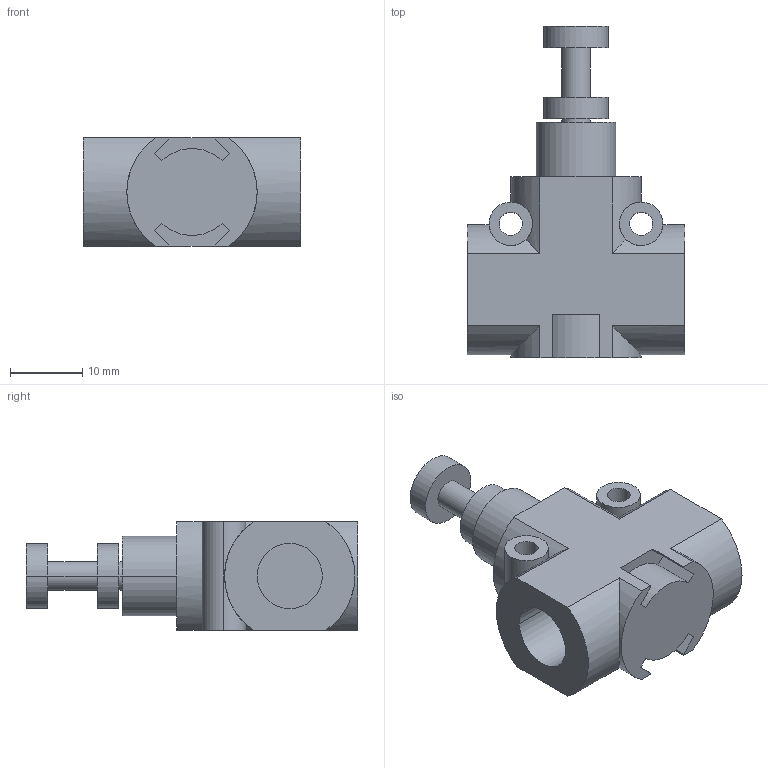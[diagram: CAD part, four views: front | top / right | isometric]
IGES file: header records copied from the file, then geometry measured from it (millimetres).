
Global section: file name: No Iges File Name specified; native system: Autodesk Inventor 2009; preprocessor: AutoDesk Inventor Iges Exporter R2009; author: rivolro1; date: 20090430.143907; units: millimetre
Bounding box: 30 x 45.8 x 15 mm (x, y, z)
Volume: 9384.1 mm3; surface area: 4409.9 mm2
Topology: 1 solids, 1 shells, 63 faces, 162 edges, 108 vertices
Faces by surface type: cylinder 23, plane 23, bspline 11, revolution 6
